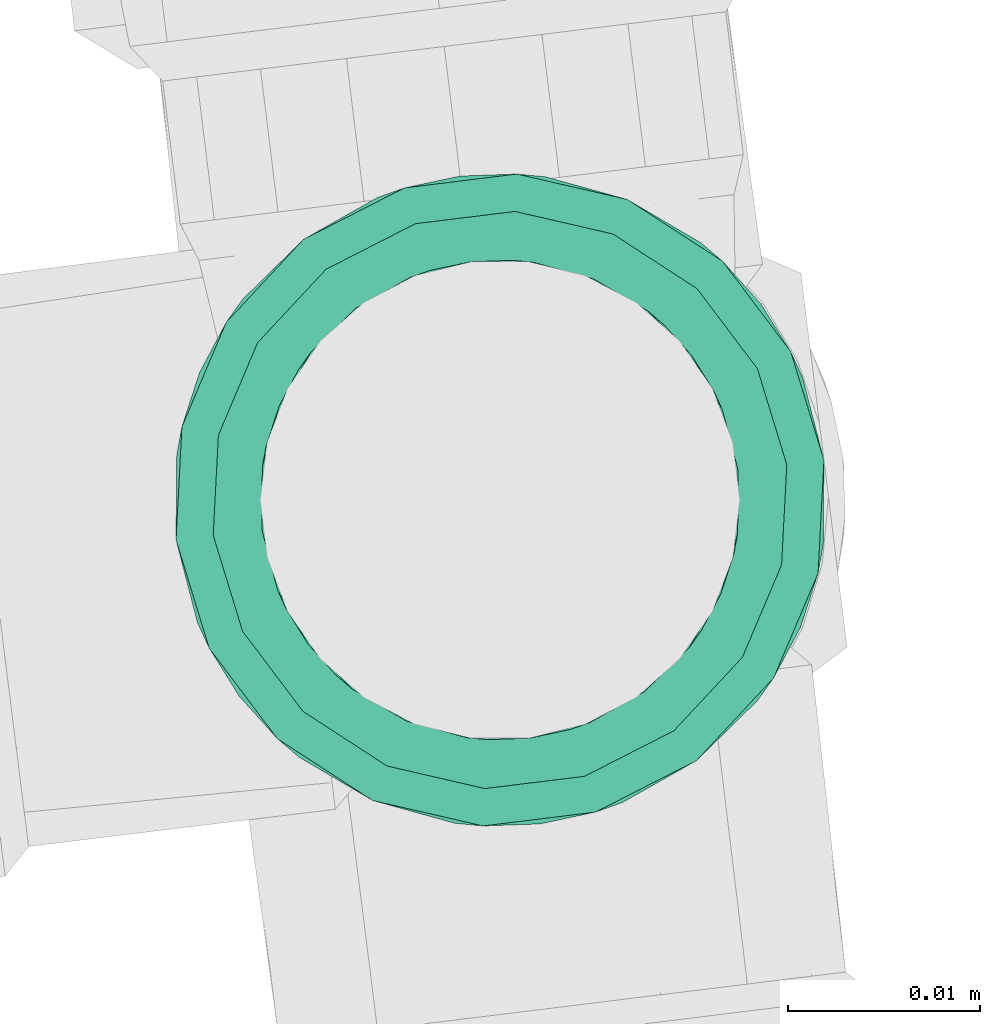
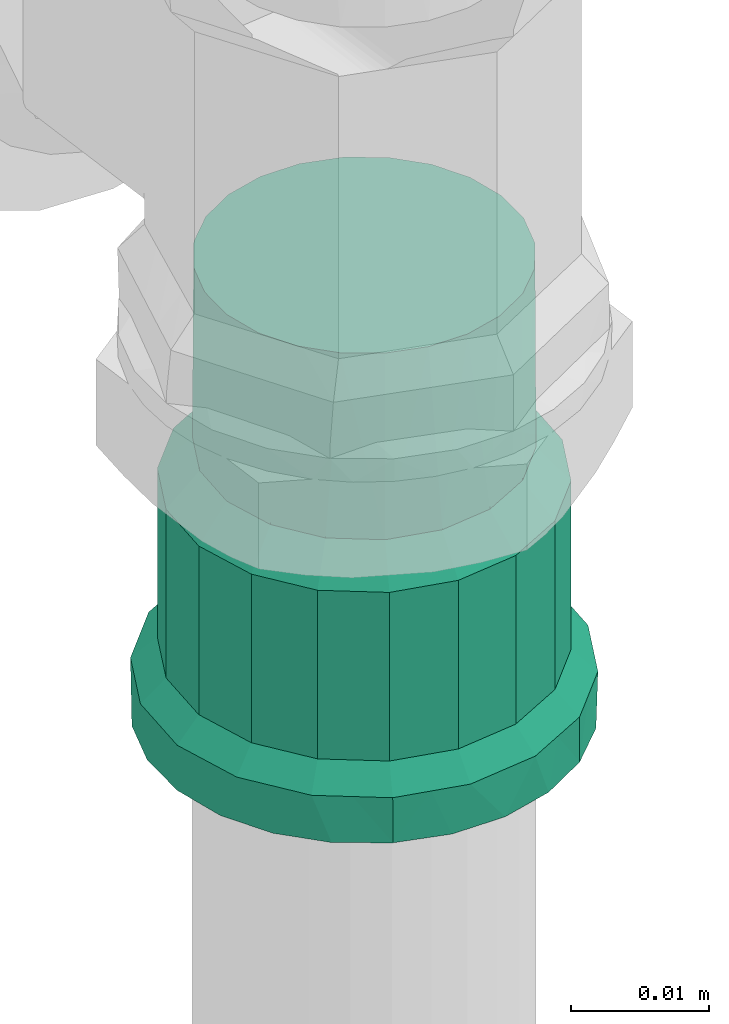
# One storey, part 73 of 97: 1 flow fitting.
"""IFC2X3 building model written with IfcOpenShell, lengths in centimetres."""

from ifc_helpers import new_model, entity, si_unit, converted_unit, derived_unit, direction, frame, origin, place, context, subcontext, project, spatial, faceted_brep, source, transform, mapped, material, type_object, type_shapes, element, save


model = new_model("IFC2X3")

# Units and contexts
model_context = context("Model", 3, precision=0.001, world=origin(), true_north=direction((6.12303176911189e-17, 1.0)))
body_context = subcontext(model_context, "Body", "Model", "MODEL_VIEW")
ifc_project = project(units=[si_unit("LENGTHUNIT", "METRE", prefix="CENTI"), si_unit("AREAUNIT", "SQUARE_METRE"), si_unit("VOLUMEUNIT", "CUBIC_METRE"), converted_unit("PLANEANGLEUNIT", "DEGREE", entity("IfcRatioMeasure", 0.0174532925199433), si_unit("PLANEANGLEUNIT", "RADIAN"), dimensions=[0, 0, 0, 0, 0, 0, 0]), si_unit("MASSUNIT", "GRAM", prefix="KILO"), derived_unit("MASSDENSITYUNIT", [(si_unit("MASSUNIT", "GRAM", prefix="KILO"), 1), (si_unit("LENGTHUNIT", "METRE"), -3)]), derived_unit("MOMENTOFINERTIAUNIT", [(si_unit("LENGTHUNIT", "METRE"), 4)]), si_unit("TIMEUNIT", "SECOND"), si_unit("FREQUENCYUNIT", "HERTZ"), si_unit("THERMODYNAMICTEMPERATUREUNIT", "DEGREE_CELSIUS"), derived_unit("THERMALTRANSMITTANCEUNIT", [(si_unit("MASSUNIT", "GRAM", prefix="KILO"), 1), (si_unit("THERMODYNAMICTEMPERATUREUNIT", "KELVIN"), -1), (si_unit("TIMEUNIT", "SECOND"), -3)]), derived_unit("VOLUMETRICFLOWRATEUNIT", [(si_unit("LENGTHUNIT", "METRE"), 3), (si_unit("TIMEUNIT", "SECOND"), -1)]), si_unit("ELECTRICCURRENTUNIT", "AMPERE"), si_unit("ELECTRICVOLTAGEUNIT", "VOLT"), si_unit("POWERUNIT", "WATT"), si_unit("FORCEUNIT", "NEWTON", prefix="KILO"), si_unit("ILLUMINANCEUNIT", "LUX"), si_unit("LUMINOUSFLUXUNIT", "LUMEN"), si_unit("LUMINOUSINTENSITYUNIT", "CANDELA"), derived_unit("USERDEFINED", [(si_unit("MASSUNIT", "GRAM", prefix="KILO"), -1), (si_unit("LENGTHUNIT", "METRE"), -2), (si_unit("TIMEUNIT", "SECOND"), 3), (si_unit("LUMINOUSFLUXUNIT", "LUMEN"), 1)]), derived_unit("LINEARVELOCITYUNIT", [(si_unit("LENGTHUNIT", "METRE"), 1), (si_unit("TIMEUNIT", "SECOND"), -1)]), si_unit("PRESSUREUNIT", "PASCAL"), derived_unit("USERDEFINED", [(si_unit("LENGTHUNIT", "METRE"), -2), (si_unit("MASSUNIT", "GRAM", prefix="KILO"), 1), (si_unit("TIMEUNIT", "SECOND"), -2)]), derived_unit("LINEARFORCEUNIT", [(si_unit("MASSUNIT", "GRAM", prefix="KILO"), 1), (si_unit("LENGTHUNIT", "METRE"), 1), (si_unit("TIMEUNIT", "SECOND"), -2), (si_unit("LENGTHUNIT", "METRE"), -1)]), derived_unit("PLANARFORCEUNIT", [(si_unit("MASSUNIT", "GRAM", prefix="KILO"), 1), (si_unit("LENGTHUNIT", "METRE"), 1), (si_unit("TIMEUNIT", "SECOND"), -2), (si_unit("LENGTHUNIT", "METRE"), -2)])], contexts=[model_context])

# Site, building, storey
site_placement = place(None, origin())
site = spatial("IfcSite", under=ifc_project, at=site_placement, Name="Default", CompositionType="ELEMENT")
building_placement = place(site_placement, origin())
building = spatial("IfcBuilding", under=site, at=building_placement, Name="HIDROSSANITÁRIO", CompositionType="ELEMENT")
storey_placement = place(building_placement, frame((0.0, 0.0, -260.0)))
storey = spatial("IfcBuildingStorey", under=building, at=storey_placement, Name="TÉRREO-HID", CompositionType="ELEMENT", Elevation=-260.0)

# Flow fitting
ifc_material = material(Name="PVC Marrom")
pipe_fitting_type = type_object("IfcPipeFittingType", Name="PVC Marrom Soldável_Adaptador Curto com Bolsa e Rosca Aninhado:Adaptador", PredefinedType="NOTDEFINED", material=ifc_material)
shared_shape = source(origin(), body_context, "Body", "Brep", [
    faceted_brep([(0.0, -0.850000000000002, -1.47224318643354), (0.0, -1.20208152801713, -1.20208152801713), (0.0, -0.624999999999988, -1.08253175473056), (0.0, -0.323523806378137, -1.20740728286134), (0.0, -0.439992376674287, -1.64207390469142), (0.0, -0.883883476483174, -0.883883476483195), (0.0, -1.47224318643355, -0.849999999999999), (0.0, -1.08253175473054, -0.625000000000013), (0.0, -1.20740728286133, -0.323523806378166), (0.0, -1.64207390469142, -0.439992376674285), (0.0, -1.25, 0.0), (0.0, -1.7, 0.0), (0.0, -1.20740728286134, 0.323523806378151), (0.0, -1.64207390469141, 0.439992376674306), (0.0, -1.08253175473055, 0.625), (0.0, -1.47224318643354, 0.850000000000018), (0.0, -0.883883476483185, 0.883883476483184), (0.0, -1.20208152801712, 1.20208152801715), (0.0, -0.625000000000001, 1.08253175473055), (0.0, -0.849999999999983, 1.47224318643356), (0.0, -0.323523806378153, 1.20740728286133), (0.0, -0.439992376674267, 1.64207390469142), (0.0, 0.0, 1.25), (0.0, 0.0, 1.7), (0.0, 0.323523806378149, 1.20740728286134), (0.0, 0.439992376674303, 1.64207390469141), (0.0, 0.624999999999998, 1.08253175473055), (0.0, 0.850000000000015, 1.47224318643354), (0.0, 0.883883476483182, 0.883883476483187), (0.0, 1.20208152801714, 1.20208152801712), (0.0, 1.08253175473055, 0.625000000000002), (0.0, 1.47224318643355, 0.849999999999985), (0.0, 1.64207390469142, 0.439992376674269), (0.0, 1.20740728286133, 0.323523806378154), (0.0, 1.7, 0.0), (0.0, 1.25, 0.0), (0.0, 1.64207390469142, -0.43999237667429), (0.0, 1.20740728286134, -0.323523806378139), (0.0, 1.47224318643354, -0.850000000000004), (0.0, 1.08253175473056, -0.624999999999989), (0.0, 1.20208152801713, -1.20208152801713), (0.0, 0.883883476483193, -0.883883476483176), (0.0, 0.849999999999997, -1.47224318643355), (0.0, 0.625000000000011, -1.08253175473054), (0.0, 0.439992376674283, -1.64207390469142), (0.0, 0.323523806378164, -1.20740728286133), (0.0, 0.0, -1.7), (0.0, 0.0, -1.25), (0.399999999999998, 1.59746124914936, 0.581478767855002), (0.399999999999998, 1.64873062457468, 0.290739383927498), (0.399999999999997, 1.07604576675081, 1.28256289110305), (0.399999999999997, 1.30221463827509, 1.09281152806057), (0.399999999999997, 1.44983794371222, 0.837145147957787), (0.399999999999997, 0.57244607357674, 1.57326016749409), (0.399999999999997, 0.295015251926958, 1.67420608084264), (0.399999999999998, 1.659968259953, 0.227012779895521), (0.399999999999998, 1.7, 0.0), (0.399999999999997, 0.849876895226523, 1.47231425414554), (0.399999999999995, -0.850246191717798, 1.47210102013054), (0.399999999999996, -0.572840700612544, 1.57311652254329), (0.399999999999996, -0.295435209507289, 1.67413202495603), (0.399999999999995, -1.30248872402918, 1.09248483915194), (0.399999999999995, -1.07636745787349, 1.28229292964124), (0.399999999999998, -1.7, 0.0), (0.399999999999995, -1.5976070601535, 0.581078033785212), (0.399999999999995, -1.45004789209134, 0.836781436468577), (0.399999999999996, -0.000209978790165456, 1.67416905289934), (0.400000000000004, -1.59760706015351, -0.581078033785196), (0.400000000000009, -1.0763674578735, -1.28229292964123), (0.400000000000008, -1.30248872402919, -1.09248483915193), (0.400000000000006, -1.45004789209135, -0.836781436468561), (0.40000000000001, -0.572840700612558, -1.57311652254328), (0.400000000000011, -0.295435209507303, -1.67413202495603), (0.40000000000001, -0.850246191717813, -1.47210102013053), (0.4, 1.64873062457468, -0.290739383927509), (0.400000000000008, 0.849876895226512, -1.47231425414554), (0.400000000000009, 0.572446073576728, -1.57326016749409), (0.40000000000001, 0.295015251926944, -1.67420608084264), (0.400000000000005, 1.30221463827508, -1.09281152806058), (0.400000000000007, 1.0760457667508, -1.28256289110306), (0.400000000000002, 1.59746124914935, -0.581478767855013), (0.400000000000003, 1.44983794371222, -0.837145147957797), (0.40000000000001, -0.000209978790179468, -1.67416905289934), (0.399999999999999, 1.65996825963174, -0.227012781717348), (2.085, 1.45359735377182, 0.29149513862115), (2.085, 1.45961152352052, 0.257389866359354), (2.085, 1.505, 0.0), (0.590000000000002, 1.505, 0.0), (0.590000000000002, 1.45961152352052, 0.257389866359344), (0.590000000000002, 1.41422304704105, 0.514779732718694), (2.085, 1.41422304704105, 0.514779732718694), (2.08499999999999, 0.952616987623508, 1.13544538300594), (2.08499999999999, 1.15284295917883, 0.967459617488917), (0.590000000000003, 1.15284295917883, 0.967459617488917), (0.590000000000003, 0.952616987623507, 1.13544538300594), (0.590000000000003, 0.752391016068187, 1.30343114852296), (2.08499999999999, 0.752391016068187, 1.30343114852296), (2.085, 1.28353300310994, 0.741119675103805), (0.590000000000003, 1.28353300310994, 0.741119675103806), (2.08499999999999, 0.261175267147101, 1.48216479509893), (2.08499999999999, 0.506783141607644, 1.39279797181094), (0.590000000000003, 0.506783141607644, 1.39279797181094), (0.590000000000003, 0.261175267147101, 1.48216479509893), (2.08499999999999, -0.261547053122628, 1.48209923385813), (2.08499999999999, -0.000185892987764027, 1.48213201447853), (0.590000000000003, -0.000185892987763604, 1.48213201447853), (0.590000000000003, -0.261547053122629, 1.48209923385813), (2.08499999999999, -0.507132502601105, 1.39267080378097), (0.590000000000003, -0.507132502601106, 1.39267080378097), (0.590000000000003, -0.752717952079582, 1.3032423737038), (2.08499999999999, -0.75271795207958, 1.3032423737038), (0.590000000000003, -0.952901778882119, 1.1352063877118), (0.590000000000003, -1.15308560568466, 0.967170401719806), (2.08499999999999, -1.15308560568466, 0.967170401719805), (2.08499999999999, -0.952901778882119, 1.1352063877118), (2.085, -1.28371886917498, 0.740797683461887), (0.590000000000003, -1.28371886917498, 0.740797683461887), (0.590000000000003, -1.4143521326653, 0.514424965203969), (2.085, -1.4143521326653, 0.514424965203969), (0.590000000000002, -1.505, 0.0), (2.085, -1.505, 0.0), (2.08500000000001, -1.41435213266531, -0.514424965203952), (0.590000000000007, -1.41435213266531, -0.514424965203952), (2.08500000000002, -0.752717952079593, -1.3032423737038), (2.08500000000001, -0.95290177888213, -1.13520638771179), (2.08500000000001, -1.15308560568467, -0.967170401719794), (0.59000000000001, -1.15308560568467, -0.967170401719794), (0.590000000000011, -0.95290177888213, -1.13520638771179), (0.590000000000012, -0.752717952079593, -1.3032423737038), (0.590000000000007, 1.28353300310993, -0.741119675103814), (0.590000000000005, 1.41422304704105, -0.514779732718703), (2.08500000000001, 1.41422304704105, -0.514779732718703), (2.08500000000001, 1.28353300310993, -0.741119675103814), (2.08500000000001, 1.15284295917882, -0.967459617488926), (0.590000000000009, 1.15284295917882, -0.967459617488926), (0.590000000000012, 0.506783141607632, -1.39279797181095), (0.590000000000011, 0.752391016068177, -1.30343114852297), (2.08500000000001, 0.752391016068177, -1.30343114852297), (2.08500000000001, 0.506783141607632, -1.39279797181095), (2.08500000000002, 0.261175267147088, -1.48216479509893), (0.590000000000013, 0.261175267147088, -1.48216479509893), (2.08500000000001, -1.28371886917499, -0.740797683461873), (0.590000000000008, -1.28371886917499, -0.740797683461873), (2.08500000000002, -0.261547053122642, -1.48209923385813), (2.08500000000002, -0.507132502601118, -1.39267080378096), (0.590000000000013, -0.507132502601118, -1.39267080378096), (0.590000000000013, -0.261547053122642, -1.48209923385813), (0.590000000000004, 1.45961152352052, -0.257389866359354), (2.085, 1.46677519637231, -0.216765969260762), (2.085, 1.45359734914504, -0.291495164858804), (0.59000000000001, 0.952616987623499, -1.13544538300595), (2.08500000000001, 0.952616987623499, -1.13544538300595), (2.08500000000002, -0.000185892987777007, -1.48213201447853), (0.590000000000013, -0.000185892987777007, -1.48213201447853), (4.03, 0.0, -1.25), (4.03, 0.323523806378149, -1.20740728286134), (4.03, 0.624999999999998, -1.08253175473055), (4.03, 0.883883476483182, -0.883883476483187), (4.03, 1.08253175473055, -0.625000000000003), (4.03, 1.20740728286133, -0.323523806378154), (4.03, 1.25, 0.0), (4.03, 1.20740728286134, 0.323523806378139), (4.03, 1.08253175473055, 0.624999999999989), (4.03, 0.883883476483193, 0.883883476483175), (4.03, 0.625000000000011, 1.08253175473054), (4.03, 0.323523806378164, 1.20740728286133), (4.03, 0.0, 1.25), (4.03, -0.323523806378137, 1.20740728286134), (4.03, -0.624999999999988, 1.08253175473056), (4.03, -0.883883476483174, 0.883883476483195), (4.03, -1.08253175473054, 0.625000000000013), (4.03, -1.20740728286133, 0.323523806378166), (4.03, -1.25, 0.0), (4.03, -1.20740728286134, -0.323523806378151), (4.03, -1.08253175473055, -0.624999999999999), (4.03, -0.883883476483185, -0.883883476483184), (4.03, -0.625000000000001, -1.08253175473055), (4.03, -0.323523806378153, -1.20740728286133), (2.375, 1.25, 0.0), (2.37499999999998, 0.957510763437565, 0.803537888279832), (2.37499999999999, 1.17460385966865, 0.427557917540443), (2.37499999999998, 0.624909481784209, 1.08258401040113), (2.37499999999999, 1.06605731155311, 0.615547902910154), (2.375, 1.21825182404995, 0.180038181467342), (2.37499999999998, 0.420916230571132, 1.15680894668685), (2.37499999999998, 0.216922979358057, 1.23103388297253), (2.37499999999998, 0.791210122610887, 0.943060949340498), (2.37499999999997, -0.217231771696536, 1.23097943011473), (2.37499999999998, -0.625181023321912, 1.08242722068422), (2.37499999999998, -0.957712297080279, 0.803297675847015), (2.37499999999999, -1.17471107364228, 0.427263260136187), (2.37499999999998, -0.791446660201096, 0.94286244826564), (2.37499999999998, -0.421206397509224, 1.1567033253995), (2.375, -1.25, 0.0), (2.37499999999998, -1.06621168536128, 0.615280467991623), (2.37499999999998, -0.000154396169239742, 1.23100665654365), (2.37500000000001, -0.957712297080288, -0.803297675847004), (2.375, -1.17471107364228, -0.427263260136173), (2.37500000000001, -0.625181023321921, -1.08242722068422), (2.37500000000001, -1.06621168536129, -0.615280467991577), (2.37500000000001, -0.421206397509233, -1.15670332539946), (2.37500000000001, -0.217231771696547, -1.23097943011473), (2.37500000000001, -0.791446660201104, -0.942862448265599), (2.37500000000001, 0.216922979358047, -1.23103388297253), (2.37500000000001, 0.6249094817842, -1.08258401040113), (2.375, 0.957510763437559, -0.803537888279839), (2.375, 1.17460385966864, -0.427557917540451), (2.37500000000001, 0.79121012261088, -0.943060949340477), (2.37500000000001, 0.420916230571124, -1.15680894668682), (2.375, 1.21230192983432, -0.213778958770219), (2.375, 1.0660573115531, -0.615547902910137), (2.37500000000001, -0.00015439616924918, -1.23100665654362), (0.590000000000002, 1.20740728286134, -0.323523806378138), (2.085, 1.20740728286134, -0.323523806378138), (2.085, 1.25, 0.0), (0.590000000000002, 1.25, 0.0), (0.399999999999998, 1.25, 0.0), (0.399999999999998, 1.20740728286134, -0.323523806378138), (0.590000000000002, 1.08253175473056, -0.624999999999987), (2.085, 1.08253175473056, -0.624999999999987), (0.399999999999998, 1.08253175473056, -0.624999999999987), (2.085, 0.625000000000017, -1.08253175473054), (2.085, 0.883883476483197, -0.883883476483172), (0.590000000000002, 0.883883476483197, -0.883883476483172), (0.399999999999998, 0.883883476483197, -0.883883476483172), (0.399999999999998, 0.625000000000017, -1.08253175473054), (0.590000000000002, 0.625000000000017, -1.08253175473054), (2.085, 0.32352380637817, -1.20740728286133), (0.399999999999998, 0.32352380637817, -1.20740728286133), (0.590000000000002, 0.32352380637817, -1.20740728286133), (2.085, 0.0, -1.25), (0.399999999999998, 0.0, -1.25), (0.590000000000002, 0.0, -1.25), (0.590000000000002, -0.323523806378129, -1.20740728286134), (2.085, -0.323523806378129, -1.20740728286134), (0.399999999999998, -0.323523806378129, -1.20740728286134), (0.590000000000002, -0.624999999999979, -1.08253175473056), (2.085, -0.624999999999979, -1.08253175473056), (0.399999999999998, -0.624999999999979, -1.08253175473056), (2.085, -1.08253175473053, -0.625000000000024), (2.085, -0.883883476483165, -0.883883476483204), (0.590000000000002, -0.883883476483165, -0.883883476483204), (0.399999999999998, -0.883883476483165, -0.883883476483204), (0.399999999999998, -1.08253175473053, -0.625000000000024), (0.590000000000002, -1.08253175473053, -0.625000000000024), (2.085, -1.20740728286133, -0.323523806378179), (0.399999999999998, -1.20740728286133, -0.323523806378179), (0.590000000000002, -1.20740728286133, -0.323523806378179), (2.085, -1.25, 0.0), (0.399999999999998, -1.25, 0.0), (0.590000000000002, -1.25, 0.0), (0.590000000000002, -1.20740728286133, 0.323523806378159), (2.085, -1.20740728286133, 0.323523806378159), (0.399999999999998, -1.20740728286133, 0.323523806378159), (0.590000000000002, -1.08253175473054, 0.625000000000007), (2.085, -1.08253175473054, 0.625000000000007), (0.399999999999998, -1.08253175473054, 0.625000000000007), (2.085, -0.624999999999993, 1.08253175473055), (2.085, -0.883883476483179, 0.88388347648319), (0.590000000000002, -0.883883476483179, 0.88388347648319), (0.399999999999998, -0.883883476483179, 0.88388347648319), (0.399999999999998, -0.624999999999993, 1.08253175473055), (0.590000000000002, -0.624999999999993, 1.08253175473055), (2.085, -0.323523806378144, 1.20740728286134), (0.399999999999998, -0.323523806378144, 1.20740728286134), (0.590000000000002, -0.323523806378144, 1.20740728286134), (2.085, 0.0, 1.25), (0.399999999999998, 0.0, 1.25), (0.590000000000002, 0.0, 1.25), (0.590000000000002, 0.323523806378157, 1.20740728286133), (2.085, 0.323523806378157, 1.20740728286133), (0.399999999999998, 0.323523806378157, 1.20740728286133), (0.590000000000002, 0.625000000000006, 1.08253175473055), (2.085, 0.625000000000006, 1.08253175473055), (0.399999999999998, 0.625000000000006, 1.08253175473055), (2.085, 1.08253175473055, 0.624999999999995), (2.085, 0.883883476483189, 0.88388347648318), (0.590000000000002, 0.883883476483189, 0.88388347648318), (0.399999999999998, 0.883883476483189, 0.88388347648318), (0.399999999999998, 1.08253175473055, 0.624999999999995), (0.590000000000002, 1.08253175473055, 0.624999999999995), (2.085, 1.20740728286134, 0.323523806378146), (0.399999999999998, 1.20740728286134, 0.323523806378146), (0.590000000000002, 1.20740728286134, 0.323523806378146)], [[[0, 1, 2]], [[0, 2, 3]], [[3, 4, 0]], [[2, 1, 5]], [[6, 5, 1]], [[7, 5, 6]], [[8, 7, 6]], [[8, 6, 9]], [[8, 9, 10]], [[10, 9, 11]], [[12, 10, 11]], [[12, 11, 13]], [[14, 12, 13]], [[14, 13, 15]], [[16, 14, 15]], [[15, 17, 16]], [[17, 18, 16]], [[18, 17, 19]], [[18, 19, 20]], [[21, 20, 19]], [[20, 21, 22]], [[22, 21, 23]], [[23, 24, 22]], [[24, 23, 25]], [[24, 25, 26]], [[27, 26, 25]], [[27, 28, 26]], [[27, 29, 28]], [[30, 28, 29]], [[31, 30, 29]], [[32, 30, 31]], [[33, 30, 32]], [[33, 32, 34]], [[34, 35, 33]], [[36, 35, 34]], [[36, 37, 35]], [[37, 36, 38]], [[39, 37, 38]], [[39, 38, 40]], [[39, 40, 41]], [[40, 42, 41]], [[41, 42, 43]], [[43, 42, 44]], [[44, 45, 43]], [[46, 45, 44]], [[4, 47, 46]], [[45, 46, 47]], [[4, 3, 47]], [[32, 48, 49]], [[50, 51, 29]], [[52, 48, 31, 51]], [[53, 25, 54]], [[48, 32, 31]], [[34, 49, 55, 56]], [[27, 57, 50]], [[29, 27, 50]], [[29, 51, 31]], [[19, 58, 59]], [[21, 19, 59]], [[53, 57, 27]], [[25, 53, 27]], [[54, 25, 23]], [[32, 49, 34]], [[59, 60, 21]], [[61, 62, 17]], [[63, 64, 13]], [[65, 61, 15, 64]], [[11, 63, 13]], [[17, 62, 19]], [[66, 54, 23, 60]], [[21, 60, 23]], [[61, 17, 15]], [[19, 62, 58]], [[13, 64, 15]], [[67, 63, 9]], [[68, 69, 1]], [[70, 67, 6, 69]], [[71, 4, 72]], [[67, 9, 6]], [[63, 11, 9]], [[4, 71, 0]], [[0, 73, 68]], [[1, 69, 6]], [[36, 34, 74]], [[42, 75, 76]], [[71, 73, 0]], [[44, 42, 76]], [[72, 4, 46]], [[1, 0, 68]], [[76, 77, 44]], [[78, 79, 40]], [[74, 80, 36]], [[81, 78, 38, 80]], [[36, 80, 38]], [[40, 79, 42]], [[82, 72, 46, 77]], [[44, 77, 46]], [[78, 40, 38]], [[42, 79, 75]], [[34, 56, 83, 74]], [[84, 85, 86, 87, 88, 89, 90]], [[91, 92, 93, 94, 95, 96]], [[92, 97, 90, 89, 98, 93]], [[99, 100, 96, 95, 101, 102]], [[103, 104, 99, 102, 105, 106]], [[107, 103, 106, 108, 109, 110]], [[111, 112, 113, 114, 110, 109]], [[115, 113, 112, 116, 117, 118]], [[117, 119, 120, 118]], [[121, 120, 119, 122]], [[123, 124, 125, 126, 127, 128]], [[129, 130, 131, 132, 133, 134]], [[135, 136, 137, 138, 139, 140]], [[125, 141, 121, 122, 142, 126]], [[143, 144, 123, 128, 145, 146]], [[131, 130, 147, 87, 86, 148, 149]], [[150, 134, 133, 151, 137, 136]], [[139, 152, 143, 146, 153, 140]], [[154, 155, 156, 157, 158, 159, 160, 161, 162, 163, 164, 165, 166, 167, 168, 169, 170, 171, 172, 173, 174, 175, 176, 177]], [[161, 160, 178]], [[163, 162, 179]], [[180, 162, 161]], [[181, 164, 163]], [[162, 180, 182, 179]], [[161, 178, 183, 180]], [[165, 181, 184, 185]], [[163, 179, 186, 181]], [[166, 165, 185]], [[165, 164, 181]], [[166, 187, 167]], [[167, 188, 168]], [[170, 169, 189]], [[188, 169, 168]], [[171, 170, 190]], [[169, 188, 191, 189]], [[167, 187, 192, 188]], [[190, 193, 171]], [[170, 189, 194, 190]], [[193, 172, 171]], [[166, 185, 195, 187]], [[173, 172, 193]], [[175, 174, 196]], [[197, 174, 173]], [[198, 176, 175]], [[174, 197, 199, 196]], [[173, 193, 197]], [[177, 198, 200, 201]], [[175, 196, 202, 198]], [[154, 177, 201]], [[177, 176, 198]], [[154, 203, 155]], [[155, 204, 156]], [[158, 157, 205]], [[204, 157, 156]], [[159, 158, 206]], [[157, 204, 207, 205]], [[155, 203, 208, 204]], [[159, 206, 209, 178]], [[158, 205, 210, 206]], [[178, 160, 159]], [[154, 201, 211, 203]], [[212, 213, 214, 215, 216, 35, 37, 217]], [[218, 219, 213, 212, 217, 37, 39, 220]], [[221, 222, 223, 224, 41, 43, 225, 226]], [[218, 220, 39, 41, 224, 223, 222, 219]], [[227, 221, 226, 225, 43, 45, 228, 229]], [[230, 227, 229, 228, 45, 47, 231, 232]], [[233, 234, 230, 232, 231, 47, 3, 235]], [[236, 237, 234, 233, 235, 3, 2, 238]], [[239, 240, 241, 242, 5, 7, 243, 244]], [[236, 238, 2, 5, 242, 241, 240, 237]], [[245, 239, 244, 243, 7, 8, 246, 247]], [[248, 245, 247, 246, 8, 10, 249, 250]], [[251, 252, 248, 250, 249, 10, 12, 253]], [[254, 255, 252, 251, 253, 12, 14, 256]], [[257, 258, 259, 260, 16, 18, 261, 262]], [[254, 256, 14, 16, 260, 259, 258, 255]], [[263, 257, 262, 261, 18, 20, 264, 265]], [[266, 263, 265, 264, 20, 22, 267, 268]], [[269, 270, 266, 268, 267, 22, 24, 271]], [[272, 273, 270, 269, 271, 24, 26, 274]], [[275, 276, 277, 278, 28, 30, 279, 280]], [[272, 274, 26, 28, 278, 277, 276, 273]], [[281, 275, 280, 279, 30, 33, 282, 283]], [[214, 281, 283, 282, 33, 35, 216, 215]], [[63, 67, 122, 119]], [[145, 128, 73, 71, 72, 146]], [[68, 73, 128, 127, 126, 69]], [[126, 142, 122, 67, 70, 69]], [[76, 75, 136, 135, 140, 77]], [[81, 80, 130, 129, 134, 78]], [[147, 130, 80, 74, 83, 56, 87]], [[140, 153, 146, 72, 82, 77]], [[134, 150, 136, 75, 79, 78]], [[89, 88, 87, 56, 55, 49, 48]], [[98, 89, 48, 52, 51, 93]], [[94, 93, 51, 50, 57, 95]], [[57, 53, 54, 102, 101, 95]], [[66, 60, 106, 105, 102, 54]], [[58, 109, 108, 106, 60, 59]], [[63, 119, 117, 64]], [[61, 65, 64, 117, 116, 112]], [[58, 62, 61, 112, 111, 109]], [[227, 230, 234, 237, 240, 239, 245, 248, 252, 255, 258, 257, 263, 266, 270, 273, 276, 275, 281, 214, 213, 219, 222, 221]], [[180, 183, 178, 86, 85, 84, 90]], [[100, 99, 185, 184, 181, 96]], [[181, 186, 179, 92, 91, 96]], [[179, 182, 180, 90, 97, 92]], [[104, 103, 187, 195, 185, 99]], [[115, 118, 190, 194, 189, 113]], [[107, 110, 188, 192, 187, 103]], [[118, 120, 193, 190]], [[189, 191, 188, 110, 114, 113]], [[120, 121, 197, 193]], [[200, 198, 123, 144, 143, 201]], [[124, 123, 198, 202, 196, 125]], [[196, 199, 197, 121, 141, 125]], [[138, 137, 204, 208, 203, 139]], [[132, 131, 206, 210, 205, 133]], [[209, 206, 131, 149, 148, 86, 178]], [[203, 211, 201, 143, 152, 139]], [[205, 207, 204, 137, 151, 133]]]),
])
type_shapes(pipe_fitting_type, [shared_shape])
flow_fitting_placement = place(storey_placement, frame((-1509.71550067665, 2919.59112945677, 174.524999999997), z_axis=(-0.122152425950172, 0.992511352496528, 0.0), x_axis=(0.0, 0.0, 1.0)))
element("IfcFlowFitting", 1, at=flow_fitting_placement, inside=storey, type_object=pipe_fitting_type, material=ifc_material, Name="PVC Marrom Soldável_Adaptador Curto com Bolsa e Rosca Aninhado:Adaptador", ObjectType="PVC Marrom Soldável_Adaptador Curto com Bolsa e Rosca Aninhado:Adaptador", context=body_context, shape_type="MappedRepresentation", body=[
    mapped(shared_shape, transform((0.0, 0.0, 0.0), scale=1.0)),
])

save(model, "model.ifc")
